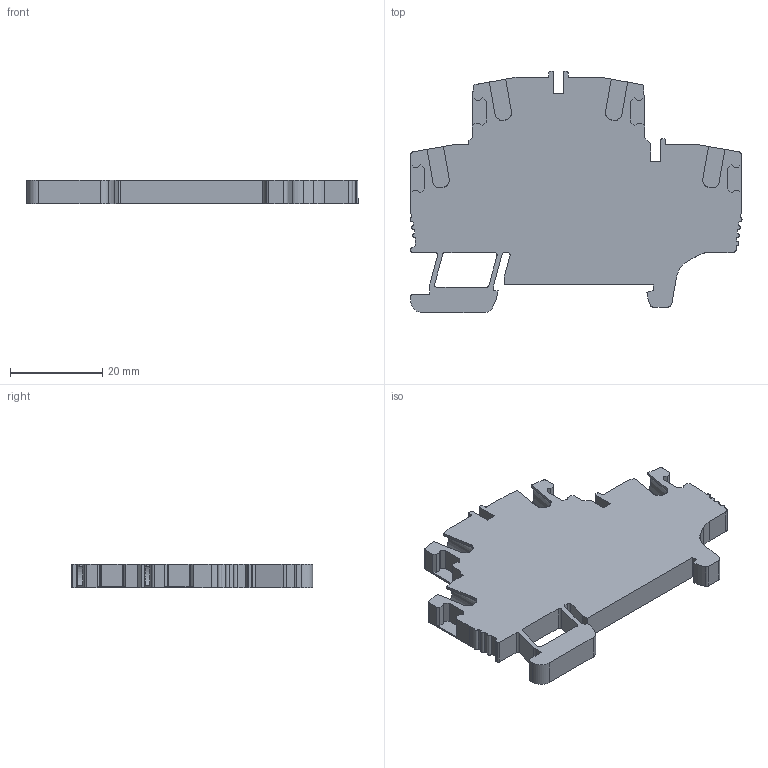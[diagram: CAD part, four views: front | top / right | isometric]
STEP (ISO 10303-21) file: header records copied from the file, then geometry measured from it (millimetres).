
FILE_DESCRIPTION(('Creo Elements/Direct Modeling STEP Export'),'2;1');
FILE_NAME('EFD.2.stp','2019-06-13T 9:50:07',(''),(''),'Creo Elements/Direct Modeling STEP processor for AP214 (Solid Model)','Creo Elements/Direct Modeling 20.1 10-Mar-2018 (C) Parametric Technology GmbH','');
FILE_SCHEMA(('AUTOMOTIVE_DESIGN { 1 0 10303 214 1 1 1 1 }'));
Length unit declared in the file: millimetre
Products named in the file (2): EFD_2.prt; EFD_2.stp
Assembly tree (1 placements, depth 2):
  EFD_2.stp
    EFD_2.prt
Bounding box: 71.96 x 52.3 x 5.2 mm (x, y, z)
Volume: 12198.4 mm3; surface area: 7593.4 mm2
Topology: 1 solids, 1 shells, 279 faces, 803 edges, 536 vertices
Faces by surface type: plane 200, cylinder 79
Entity records: 9443 total; most frequent: ORIENTED_EDGE 1606, CARTESIAN_POINT 1605, DIRECTION 1499, EDGE_CURVE 803, VECTOR 639, LINE 639, VERTEX_POINT 536, AXIS2_PLACEMENT_3D 430
